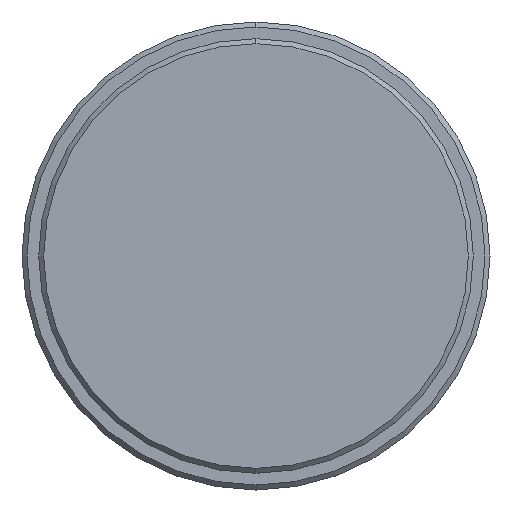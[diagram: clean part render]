
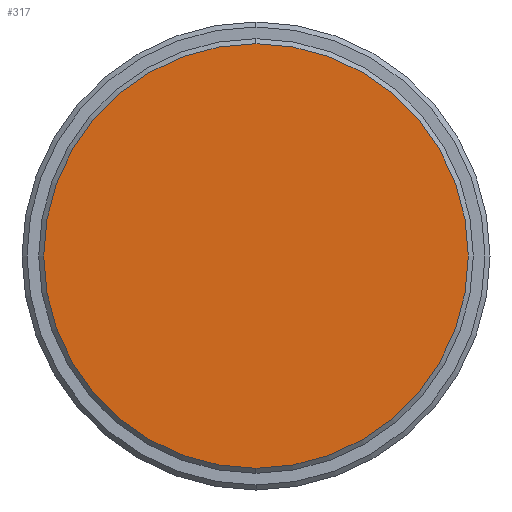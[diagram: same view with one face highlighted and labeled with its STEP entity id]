
A CAD part, left-side view. The second image highlights one B-rep face of the part: STEP entity #317.
In plain terms, the highlighted planar face has unit normal (-1, 0, 0).
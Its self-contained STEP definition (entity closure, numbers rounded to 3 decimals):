
#25 = DIRECTION ( 'NONE',  ( 0., 0., 1. ) ) ;
#48 = DIRECTION ( 'NONE',  ( 0., 0., 1. ) ) ;
#49 = CARTESIAN_POINT ( 'NONE',  ( 0., 0., 0. ) ) ;
#86 = FACE_OUTER_BOUND ( 'NONE', #235, .T. ) ;
#212 = DIRECTION ( 'NONE',  ( -1., 0., 0. ) ) ;
#213 = CARTESIAN_POINT ( 'NONE',  ( 0., 0., 12.7 ) ) ;
#216 = VERTEX_POINT ( 'NONE', #302 ) ;
#231 = ORIENTED_EDGE ( 'NONE', *, *, #533, .T. ) ;
#235 = EDGE_LOOP ( 'NONE', ( #384, #231 ) ) ;
#284 = AXIS2_PLACEMENT_3D ( 'NONE', #49, #322, #605 ) ;
#302 = CARTESIAN_POINT ( 'NONE',  ( 0., 0., -12.7 ) ) ;
#316 = VERTEX_POINT ( 'NONE', #213 ) ;
#317 = ADVANCED_FACE ( 'NONE', ( #86 ), #555, .F. ) ;
#322 = DIRECTION ( 'NONE',  ( 1., 0., 0. ) ) ;
#372 = CIRCLE ( 'NONE', #690, 12.7 ) ;
#384 = ORIENTED_EDGE ( 'NONE', *, *, #679, .T. ) ;
#417 = AXIS2_PLACEMENT_3D ( 'NONE', #675, #625, #25 ) ;
#447 = CIRCLE ( 'NONE', #417, 12.7 ) ;
#498 = CARTESIAN_POINT ( 'NONE',  ( 0., 0., 0. ) ) ;
#533 = EDGE_CURVE ( 'NONE', #316, #216, #447, .T. ) ;
#555 = PLANE ( 'NONE',  #284 ) ;
#605 = DIRECTION ( 'NONE',  ( 0., 0., -1. ) ) ;
#625 = DIRECTION ( 'NONE',  ( -1., 0., 0. ) ) ;
#675 = CARTESIAN_POINT ( 'NONE',  ( 0., 0., 0. ) ) ;
#679 = EDGE_CURVE ( 'NONE', #216, #316, #372, .T. ) ;
#690 = AXIS2_PLACEMENT_3D ( 'NONE', #498, #212, #48 ) ;
